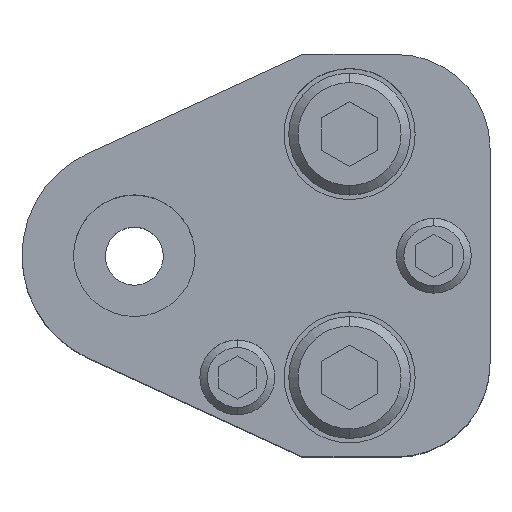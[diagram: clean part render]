
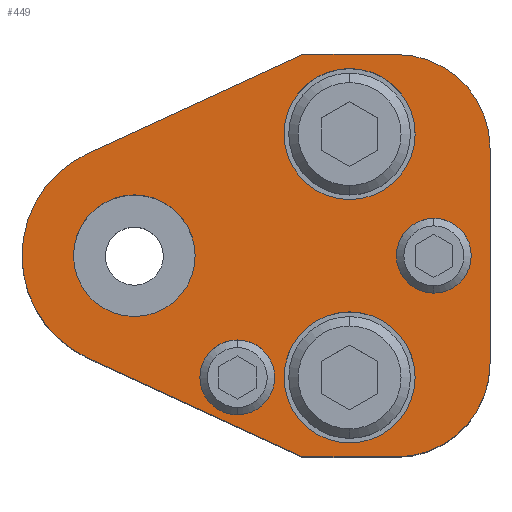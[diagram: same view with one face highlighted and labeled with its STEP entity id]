
A CAD part, top view. The second image highlights one B-rep face of the part: STEP entity #449.
In plain terms, the highlighted planar face has unit normal (0, 0, 1).
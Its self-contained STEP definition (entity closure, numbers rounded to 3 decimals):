
#205=FACE_BOUND('',#805,.T.);
#206=FACE_BOUND('',#806,.T.);
#207=FACE_BOUND('',#807,.T.);
#208=FACE_BOUND('',#808,.T.);
#209=FACE_BOUND('',#809,.T.);
#210=FACE_BOUND('',#810,.T.);
#271=CIRCLE('',#2618,12.);
#273=CIRCLE('',#2623,10.);
#275=CIRCLE('',#2627,10.);
#277=CIRCLE('',#2632,4.);
#279=CIRCLE('',#2635,4.);
#281=CIRCLE('',#2638,4.);
#283=CIRCLE('',#2641,4.);
#293=CIRCLE('',#2656,7.);
#294=CIRCLE('',#2657,7.);
#295=CIRCLE('',#2658,7.);
#296=CIRCLE('',#2659,7.);
#297=CIRCLE('',#2660,6.5);
#298=CIRCLE('',#2661,6.5);
#449=ADVANCED_FACE('',(#205,#206,#207,#208,#209,#210),#579,.T.);
#579=PLANE('',#2662);
#805=EDGE_LOOP('',(#1137,#1138,#1139,#1140,#1141,#1142,#1143,#1144));
#806=EDGE_LOOP('',(#1145,#1146));
#807=EDGE_LOOP('',(#1147,#1148));
#808=EDGE_LOOP('',(#1149,#1150));
#809=EDGE_LOOP('',(#1151,#1152));
#810=EDGE_LOOP('',(#1153,#1154));
#1137=ORIENTED_EDGE('',*,*,#1914,.T.);
#1138=ORIENTED_EDGE('',*,*,#1918,.T.);
#1139=ORIENTED_EDGE('',*,*,#1921,.T.);
#1140=ORIENTED_EDGE('',*,*,#1924,.T.);
#1141=ORIENTED_EDGE('',*,*,#1927,.T.);
#1142=ORIENTED_EDGE('',*,*,#1930,.T.);
#1143=ORIENTED_EDGE('',*,*,#1933,.T.);
#1144=ORIENTED_EDGE('',*,*,#1936,.T.);
#1145=ORIENTED_EDGE('',*,*,#1961,.F.);
#1146=ORIENTED_EDGE('',*,*,#1962,.F.);
#1147=ORIENTED_EDGE('',*,*,#1963,.F.);
#1148=ORIENTED_EDGE('',*,*,#1964,.F.);
#1149=ORIENTED_EDGE('',*,*,#1947,.F.);
#1150=ORIENTED_EDGE('',*,*,#1943,.F.);
#1151=ORIENTED_EDGE('',*,*,#1941,.F.);
#1152=ORIENTED_EDGE('',*,*,#1937,.F.);
#1153=ORIENTED_EDGE('',*,*,#1965,.T.);
#1154=ORIENTED_EDGE('',*,*,#1966,.T.);
#1670=VERTEX_POINT('',#3804);
#1671=VERTEX_POINT('',#3806);
#1674=VERTEX_POINT('',#3813);
#1676=VERTEX_POINT('',#3819);
#1678=VERTEX_POINT('',#3825);
#1680=VERTEX_POINT('',#3831);
#1682=VERTEX_POINT('',#3837);
#1684=VERTEX_POINT('',#3843);
#1685=VERTEX_POINT('',#3851);
#1686=VERTEX_POINT('',#3852);
#1689=VERTEX_POINT('',#3863);
#1690=VERTEX_POINT('',#3864);
#1701=VERTEX_POINT('',#3899);
#1702=VERTEX_POINT('',#3900);
#1703=VERTEX_POINT('',#3903);
#1704=VERTEX_POINT('',#3904);
#1705=VERTEX_POINT('',#3907);
#1706=VERTEX_POINT('',#3908);
#1914=EDGE_CURVE('',#1671,#1670,#271,.T.);
#1918=EDGE_CURVE('',#1670,#1674,#2242,.T.);
#1921=EDGE_CURVE('',#1674,#1676,#2245,.T.);
#1924=EDGE_CURVE('',#1676,#1678,#273,.T.);
#1927=EDGE_CURVE('',#1678,#1680,#2249,.T.);
#1930=EDGE_CURVE('',#1680,#1682,#275,.T.);
#1933=EDGE_CURVE('',#1682,#1684,#2253,.T.);
#1936=EDGE_CURVE('',#1684,#1671,#2256,.T.);
#1937=EDGE_CURVE('',#1685,#1686,#277,.T.);
#1941=EDGE_CURVE('',#1686,#1685,#279,.T.);
#1943=EDGE_CURVE('',#1689,#1690,#281,.T.);
#1947=EDGE_CURVE('',#1690,#1689,#283,.T.);
#1961=EDGE_CURVE('',#1701,#1702,#293,.T.);
#1962=EDGE_CURVE('',#1702,#1701,#294,.T.);
#1963=EDGE_CURVE('',#1703,#1704,#295,.T.);
#1964=EDGE_CURVE('',#1704,#1703,#296,.T.);
#1965=EDGE_CURVE('',#1705,#1706,#297,.T.);
#1966=EDGE_CURVE('',#1706,#1705,#298,.T.);
#2242=LINE('',#3814,#2432);
#2245=LINE('',#3820,#2435);
#2249=LINE('',#3832,#2439);
#2253=LINE('',#3844,#2443);
#2256=LINE('',#3848,#2446);
#2432=VECTOR('',#3024,1.);
#2435=VECTOR('',#3029,1.);
#2439=VECTOR('',#3041,1.);
#2443=VECTOR('',#3053,1.);
#2446=VECTOR('',#3058,1.);
#2618=AXIS2_PLACEMENT_3D('',#3805,#3016,#3017);
#2623=AXIS2_PLACEMENT_3D('',#3826,#3034,#3035);
#2627=AXIS2_PLACEMENT_3D('',#3838,#3046,#3047);
#2632=AXIS2_PLACEMENT_3D('',#3850,#3061,#3062);
#2635=AXIS2_PLACEMENT_3D('',#3859,#3069,#3070);
#2638=AXIS2_PLACEMENT_3D('',#3862,#3075,#3076);
#2641=AXIS2_PLACEMENT_3D('',#3871,#3083,#3084);
#2656=AXIS2_PLACEMENT_3D('',#3898,#3117,#3118);
#2657=AXIS2_PLACEMENT_3D('',#3901,#3119,#3120);
#2658=AXIS2_PLACEMENT_3D('',#3902,#3121,#3122);
#2659=AXIS2_PLACEMENT_3D('',#3905,#3123,#3124);
#2660=AXIS2_PLACEMENT_3D('',#3906,#3125,#3126);
#2661=AXIS2_PLACEMENT_3D('',#3909,#3127,#3128);
#2662=AXIS2_PLACEMENT_3D('',#3910,#3129,#3130);
#3016=DIRECTION('',(0.,0.,1.));
#3017=DIRECTION('',(0.,1.,0.));
#3024=DIRECTION('',(0.908,-0.418,0.));
#3029=DIRECTION('',(1.,0.,0.));
#3034=DIRECTION('',(0.,0.,1.));
#3035=DIRECTION('',(-0.707,0.707,0.));
#3041=DIRECTION('',(0.,1.,0.));
#3046=DIRECTION('',(0.,0.,1.));
#3047=DIRECTION('',(-0.707,-0.707,0.));
#3053=DIRECTION('',(-1.,0.,0.));
#3058=DIRECTION('',(-0.908,-0.418,0.));
#3061=DIRECTION('',(0.,0.,1.));
#3062=DIRECTION('',(1.,0.,0.));
#3069=DIRECTION('',(0.,0.,1.));
#3070=DIRECTION('',(-1.,0.,0.));
#3075=DIRECTION('',(0.,0.,1.));
#3076=DIRECTION('',(1.,0.,0.));
#3083=DIRECTION('',(0.,0.,1.));
#3084=DIRECTION('',(-1.,0.,0.));
#3117=DIRECTION('',(0.,0.,1.));
#3118=DIRECTION('',(1.,0.,0.));
#3119=DIRECTION('',(0.,0.,1.));
#3120=DIRECTION('',(-1.,0.,0.));
#3121=DIRECTION('',(0.,0.,1.));
#3122=DIRECTION('',(1.,0.,0.));
#3123=DIRECTION('',(0.,0.,1.));
#3124=DIRECTION('',(-1.,0.,0.));
#3125=DIRECTION('',(0.,0.,-1.));
#3126=DIRECTION('',(-1.,0.,0.));
#3127=DIRECTION('',(0.,0.,-1.));
#3128=DIRECTION('',(1.,0.,0.));
#3129=DIRECTION('',(0.,0.,1.));
#3130=DIRECTION('',(0.908,0.418,0.));
#3804=CARTESIAN_POINT('',(-5.019,-10.9,35.));
#3805=CARTESIAN_POINT('',(0.,0.,35.));
#3806=CARTESIAN_POINT('',(-5.019,10.9,35.));
#3813=CARTESIAN_POINT('',(18.,-21.5,35.));
#3814=CARTESIAN_POINT('',(18.,-21.5,35.));
#3819=CARTESIAN_POINT('',(28.,-21.5,35.));
#3820=CARTESIAN_POINT('',(18.,-21.5,35.));
#3825=CARTESIAN_POINT('',(38.,-11.5,35.));
#3826=CARTESIAN_POINT('',(28.,-11.5,35.));
#3831=CARTESIAN_POINT('',(38.,11.5,35.));
#3832=CARTESIAN_POINT('',(38.,-11.5,35.));
#3837=CARTESIAN_POINT('',(28.,21.5,35.));
#3838=CARTESIAN_POINT('',(28.,11.5,35.));
#3843=CARTESIAN_POINT('',(18.,21.5,35.));
#3844=CARTESIAN_POINT('',(18.,21.5,35.));
#3848=CARTESIAN_POINT('',(18.,21.5,35.));
#3850=CARTESIAN_POINT('',(11.,-13.,35.));
#3851=CARTESIAN_POINT('',(11.,-9.,35.));
#3852=CARTESIAN_POINT('',(11.,-17.,35.));
#3859=CARTESIAN_POINT('',(11.,-13.,35.));
#3862=CARTESIAN_POINT('',(32.,0.,35.));
#3863=CARTESIAN_POINT('',(32.,4.,35.));
#3864=CARTESIAN_POINT('',(32.,-4.,35.));
#3871=CARTESIAN_POINT('',(32.,0.,35.));
#3898=CARTESIAN_POINT('',(23.,-13.,35.));
#3899=CARTESIAN_POINT('',(23.,-6.,35.));
#3900=CARTESIAN_POINT('',(23.,-20.,35.));
#3901=CARTESIAN_POINT('',(23.,-13.,35.));
#3902=CARTESIAN_POINT('',(23.,13.,35.));
#3903=CARTESIAN_POINT('',(23.,20.,35.));
#3904=CARTESIAN_POINT('',(23.,6.,35.));
#3905=CARTESIAN_POINT('',(23.,13.,35.));
#3906=CARTESIAN_POINT('',(0.,0.,35.));
#3907=CARTESIAN_POINT('',(0.,6.5,35.));
#3908=CARTESIAN_POINT('',(0.,-6.5,35.));
#3909=CARTESIAN_POINT('',(0.,0.,35.));
#3910=CARTESIAN_POINT('',(-5.019,10.9,35.));
